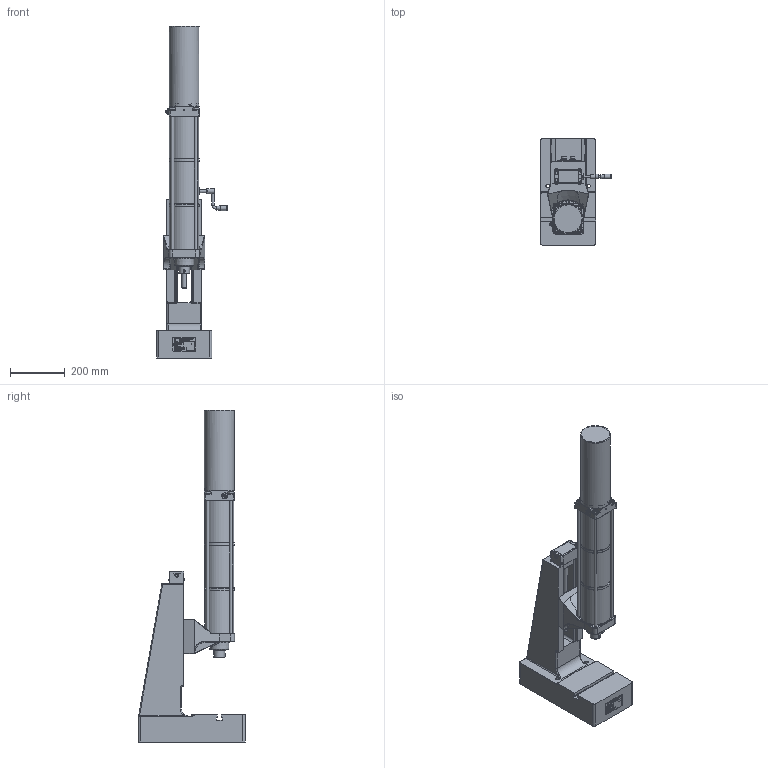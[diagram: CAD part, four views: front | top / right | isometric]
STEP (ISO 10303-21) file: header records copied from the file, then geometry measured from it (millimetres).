
FILE_DESCRIPTION(/* description */ ('Bausatz Ständer T4N HV-OST'),/* implementation_level */ '2;1');
FILE_NAME(/* name */ 'B:\02_CAD_oeffentlich\CAD_3D_oeffentlich_step\Druckluftpresse\DRP_1300_120_130.stp',/* time_stamp */ '2017-08-23T07:21:32+02:00',/* author */ ('Finsterle'),/* organization */ (''),/* preprocessor_version */ 'ST-DEVELOPER v16.1',/* originating_system */ 'Autodesk Inventor 2016',/* authorisation */ '');
FILE_SCHEMA (('AUTOMOTIVE_DESIGN { 1 0 10303 214 3 1 1 }'));
Products named in the file (5): ENG-000753-1_V; ENG-001083_V; HBF-000760; ENG-000755; HBF-001059_V
Assembly tree (5 placements, depth 2):
  HBF-001059_V
    ENG-000753-1_V
    ENG-001083_V
    HBF-000760
    ENG-000755  x2
Bounding box: 259.79 x 393.8 x 1218.29 mm (x, y, z)
Volume: 12324452.4 mm3; surface area: 1791692.7 mm2
Topology: 6 solids, 16 shells, 7600 faces, 20588 edges, 13454 vertices
Faces by surface type: plane 4595, bspline 2104, cylinder 479, cone 237, torus 110, sphere 75
Full cylindrical faces by diameter (mm): 1 x1, 2 x1, 2.4 x3, 2.459 x2, 3 x7, 3.242 x7, 3.5 x2, 3.65 x4, 4 x6, 4.134 x1, 4.5 x4, 4.917 x6, 5 x3, 6.2 x4, 6.5 x2, 6.647 x1, 8 x7, 8.4 x1, 8.5 x1, 10 x7, 10.02 x1, 10.106 x2, 10.5 x12, 11.8 x2, 12 x7, 13 x8, 13.5 x4, 14 x3, 14.376 x2, 14.95 x3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
Entity records: 258023 total; most frequent: CARTESIAN_POINT 75855, ORIENTED_EDGE 39972, DIRECTION 27966, EDGE_CURVE 19973, LINE 13954, VECTOR 13954, VERTEX_POINT 13323, EDGE_LOOP 8582
